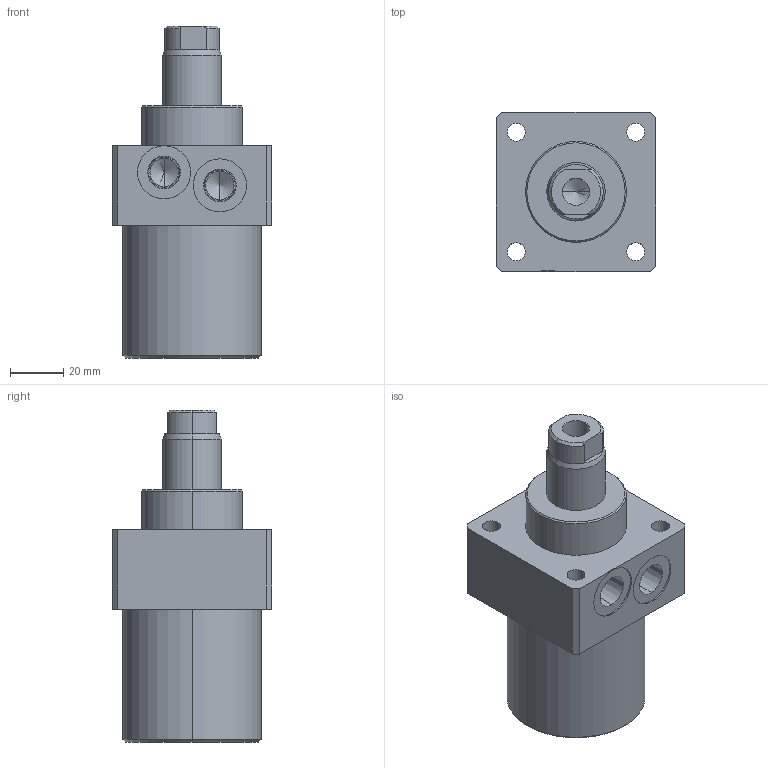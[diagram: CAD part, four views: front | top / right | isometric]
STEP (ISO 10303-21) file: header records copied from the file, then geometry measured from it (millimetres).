
FILE_DESCRIPTION (( 'STEP AP203' ), '1' );
FILE_NAME ('4311 411 421.STEP', '2016-01-28T12:17:03', ( '' ), ( '' ), 'SwSTEP 2.0', 'SolidWorks 2015', '' );
FILE_SCHEMA (( 'CONFIG_CONTROL_DESIGN' ));
Length unit declared in the file: millimetre
Products named in the file (1): 4311 411 421
Bounding box: 60 x 60 x 125 mm (x, y, z)
Volume: 230011.1 mm3; surface area: 30796.9 mm2
Topology: 1 solids, 1 shells, 71 faces, 168 edges, 103 vertices
Faces by surface type: cylinder 27, plane 25, cone 19
Entity records: 2109 total; most frequent: DIRECTION 370, CARTESIAN_POINT 361, ORIENTED_EDGE 324, EDGE_CURVE 162, AXIS2_PLACEMENT_3D 144, VERTEX_POINT 103, EDGE_LOOP 89, LINE 82
